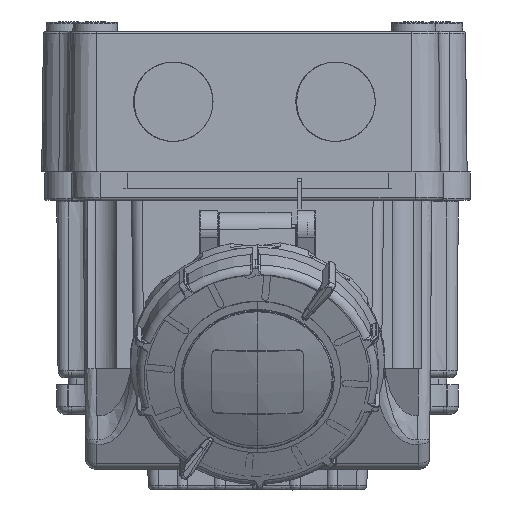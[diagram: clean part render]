
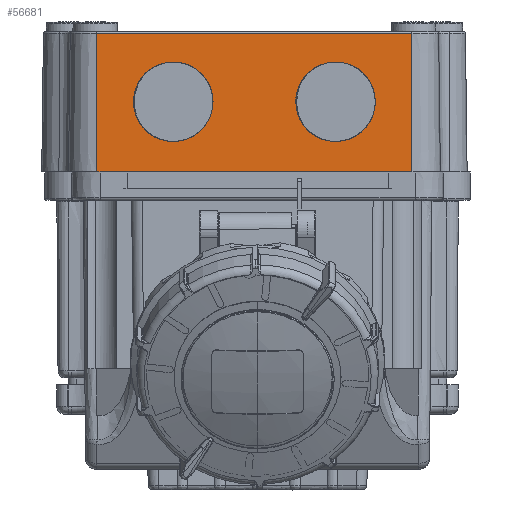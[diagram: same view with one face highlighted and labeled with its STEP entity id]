
A CAD part, left-side view. The second image highlights one B-rep face of the part: STEP entity #56681.
In plain terms, the highlighted planar face has unit normal (-1, 0, 0.012).
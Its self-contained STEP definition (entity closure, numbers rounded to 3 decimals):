
#901 = DIRECTION ( 'NONE',  ( 0.012, 0., 1. ) ) ;
#1281 = LINE ( 'NONE', #35856, #42188 ) ;
#2744 =( BOUNDED_CURVE ( )  B_SPLINE_CURVE ( 3, ( #61832, #13734, #25247, #68578 ),
 .UNSPECIFIED., .F., .F. ) 
 B_SPLINE_CURVE_WITH_KNOTS ( ( 4, 4 ),
 ( 1.571, 4.712 ),
 .UNSPECIFIED. ) 
 CURVE ( )  GEOMETRIC_REPRESENTATION_ITEM ( )  RATIONAL_B_SPLINE_CURVE ( ( 1., 0.334, 0.334, 1. ) ) 
 REPRESENTATION_ITEM ( '' )  );
#3080 = CARTESIAN_POINT ( 'NONE',  ( 684.272, 5298.135, 22.3 ) ) ;
#3193 = ORIENTED_EDGE ( 'NONE', *, *, #73000, .F. ) ;
#3639 = DIRECTION ( 'NONE',  ( 0., 1., 0. ) ) ;
#4719 = CARTESIAN_POINT ( 'NONE',  ( 684.118, 5259.25, 9.68 ) ) ;
#4720 = CARTESIAN_POINT ( 'NONE',  ( 684.272, 5298.135, 22.3 ) ) ;
#5033 = ORIENTED_EDGE ( 'NONE', *, *, #22813, .T. ) ;
#5202 = VERTEX_POINT ( 'NONE', #35267 ) ;
#5737 = VERTEX_POINT ( 'NONE', #42854 ) ;
#9589 = FACE_BOUND ( 'NONE', #74654, .T. ) ;
#10658 = CARTESIAN_POINT ( 'NONE',  ( 684.272, 5323.365, 22.3 ) ) ;
#13734 = CARTESIAN_POINT ( 'NONE',  ( 684.58, 5246.646, 47.508 ) ) ;
#15327 = CARTESIAN_POINT ( 'NONE',  ( 684.539, 5235., 44.106 ) ) ;
#16507 = CARTESIAN_POINT ( 'NONE',  ( 684.272, 5298.135, 22.3 ) ) ;
#16544 = CARTESIAN_POINT ( 'NONE',  ( 684.118, 5303.358, 9.68 ) ) ;
#16777 = CARTESIAN_POINT ( 'NONE',  ( 684., 5284., 0. ) ) ;
#17959 = VERTEX_POINT ( 'NONE', #68915 ) ;
#18195 = EDGE_LOOP ( 'NONE', ( #18759, #53287 ) ) ;
#18499 = LINE ( 'NONE', #48321, #69074 ) ;
#18759 = ORIENTED_EDGE ( 'NONE', *, *, #52064, .F. ) ;
#20058 = EDGE_CURVE ( 'NONE', #5737, #17959, #1281, .T. ) ;
#22210 = CARTESIAN_POINT ( 'NONE',  ( 684.182, 5246.632, 14.908 ) ) ;
#22311 = VERTEX_POINT ( 'NONE', #78477 ) ;
#22813 = EDGE_CURVE ( 'NONE', #5737, #59262, #31669, .T. ) ;
#23152 = LINE ( 'NONE', #16777, #46594 ) ;
#25247 = CARTESIAN_POINT ( 'NONE',  ( 684.58, 5271.854, 47.508 ) ) ;
#27388 = EDGE_CURVE ( 'NONE', #22311, #54588, #68928, .T. ) ;
#27487 = FACE_BOUND ( 'NONE', #18195, .T. ) ;
#30438 = EDGE_LOOP ( 'NONE', ( #5033, #39424, #60289, #58547, #61070 ) ) ;
#30675 = VECTOR ( 'NONE', #57457, 1000. ) ;
#30950 = AXIS2_PLACEMENT_3D ( 'NONE', #45374, #44986, #3639 ) ;
#31669 = LINE ( 'NONE', #32450, #32688 ) ;
#32450 = CARTESIAN_POINT ( 'NONE',  ( 684., 5335., 0. ) ) ;
#32688 = VECTOR ( 'NONE', #75736, 1000. ) ;
#33870 = ORIENTED_EDGE ( 'NONE', *, *, #27388, .F. ) ;
#34386 = LINE ( 'NONE', #15327, #30675 ) ;
#34502 = CARTESIAN_POINT ( 'NONE',  ( 684.58, 5298.146, 47.508 ) ) ;
#35267 = CARTESIAN_POINT ( 'NONE',  ( 684., 5235., 0. ) ) ;
#35297 = CARTESIAN_POINT ( 'NONE',  ( 684.182, 5271.868, 14.908 ) ) ;
#35479 =( BOUNDED_CURVE ( )  B_SPLINE_CURVE ( 3, ( #4720, #34502, #70296, #10658 ),
 .UNSPECIFIED., .F., .F. ) 
 B_SPLINE_CURVE_WITH_KNOTS ( ( 4, 4 ),
 ( 1.571, 4.712 ),
 .UNSPECIFIED. ) 
 CURVE ( )  GEOMETRIC_REPRESENTATION_ITEM ( )  RATIONAL_B_SPLINE_CURVE ( ( 1., 0.334, 0.334, 1. ) ) 
 REPRESENTATION_ITEM ( '' )  );
#35856 = CARTESIAN_POINT ( 'NONE',  ( 684., 5335., 0. ) ) ;
#39194 =( BOUNDED_CURVE ( )  B_SPLINE_CURVE ( 3, ( #57900, #57503, #69821, #71005, #16544, #40800, #3080 ),
 .UNSPECIFIED., .F., .F. ) 
 B_SPLINE_CURVE_WITH_KNOTS ( ( 4, 3, 4 ),
 ( 4.712, 6.283, 7.854 ),
 .UNSPECIFIED. ) 
 CURVE ( )  GEOMETRIC_REPRESENTATION_ITEM ( )  RATIONAL_B_SPLINE_CURVE ( ( 1., 0.805, 0.805, 1., 0.805, 0.805, 1. ) ) 
 REPRESENTATION_ITEM ( '' )  );
#39424 = ORIENTED_EDGE ( 'NONE', *, *, #61242, .F. ) ;
#39735 = VERTEX_POINT ( 'NONE', #16507 ) ;
#40352 = EDGE_CURVE ( 'NONE', #39735, #60968, #35479, .T. ) ;
#40800 = CARTESIAN_POINT ( 'NONE',  ( 684.182, 5298.132, 14.908 ) ) ;
#41212 = DIRECTION ( 'NONE',  ( 0., -1., 0. ) ) ;
#42188 = VECTOR ( 'NONE', #901, 1000. ) ;
#42854 = CARTESIAN_POINT ( 'NONE',  ( 684., 5335., 0. ) ) ;
#44594 = EDGE_CURVE ( 'NONE', #61968, #5202, #34386, .T. ) ;
#44957 = CARTESIAN_POINT ( 'NONE',  ( 684., 5334., 0. ) ) ;
#44986 = DIRECTION ( 'NONE',  ( -1., 0., 0.012 ) ) ;
#45374 = CARTESIAN_POINT ( 'NONE',  ( 684., 5285., 0. ) ) ;
#46594 = VECTOR ( 'NONE', #46982, 1000. ) ;
#46982 = DIRECTION ( 'NONE',  ( 0., 1., 0. ) ) ;
#48321 = CARTESIAN_POINT ( 'NONE',  ( 684.539, 5335., 44.106 ) ) ;
#50555 = PLANE ( 'NONE',  #30950 ) ;
#52064 = EDGE_CURVE ( 'NONE', #60968, #39735, #39194, .T. ) ;
#52369 = CARTESIAN_POINT ( 'NONE',  ( 684.539, 5235., 44.106 ) ) ;
#52389 = CARTESIAN_POINT ( 'NONE',  ( 684.272, 5246.635, 22.3 ) ) ;
#53287 = ORIENTED_EDGE ( 'NONE', *, *, #40352, .F. ) ;
#53565 = CARTESIAN_POINT ( 'NONE',  ( 684.272, 5271.865, 22.3 ) ) ;
#54588 = VERTEX_POINT ( 'NONE', #64356 ) ;
#56681 = ADVANCED_FACE ( 'NONE', ( #9589, #27487, #58077 ), #50555, .T. ) ;
#57457 = DIRECTION ( 'NONE',  ( -0.012, 0., -1. ) ) ;
#57503 = CARTESIAN_POINT ( 'NONE',  ( 684.182, 5323.368, 14.908 ) ) ;
#57900 = CARTESIAN_POINT ( 'NONE',  ( 684.272, 5323.365, 22.3 ) ) ;
#58077 = FACE_OUTER_BOUND ( 'NONE', #30438, .T. ) ;
#58359 = CARTESIAN_POINT ( 'NONE',  ( 684.118, 5266.642, 9.68 ) ) ;
#58547 = ORIENTED_EDGE ( 'NONE', *, *, #73882, .F. ) ;
#59262 = VERTEX_POINT ( 'NONE', #44957 ) ;
#60289 = ORIENTED_EDGE ( 'NONE', *, *, #44594, .F. ) ;
#60968 = VERTEX_POINT ( 'NONE', #68653 ) ;
#61070 = ORIENTED_EDGE ( 'NONE', *, *, #20058, .F. ) ;
#61242 = EDGE_CURVE ( 'NONE', #5202, #59262, #23152, .T. ) ;
#61832 = CARTESIAN_POINT ( 'NONE',  ( 684.272, 5246.635, 22.3 ) ) ;
#61968 = VERTEX_POINT ( 'NONE', #52369 ) ;
#64356 = CARTESIAN_POINT ( 'NONE',  ( 684.272, 5246.635, 22.3 ) ) ;
#65922 = CARTESIAN_POINT ( 'NONE',  ( 684.118, 5251.858, 9.68 ) ) ;
#68578 = CARTESIAN_POINT ( 'NONE',  ( 684.272, 5271.865, 22.3 ) ) ;
#68653 = CARTESIAN_POINT ( 'NONE',  ( 684.272, 5323.365, 22.3 ) ) ;
#68915 = CARTESIAN_POINT ( 'NONE',  ( 684.539, 5335., 44.106 ) ) ;
#68928 =( BOUNDED_CURVE ( )  B_SPLINE_CURVE ( 3, ( #53565, #35297, #58359, #4719, #65922, #22210, #52389 ),
 .UNSPECIFIED., .F., .F. ) 
 B_SPLINE_CURVE_WITH_KNOTS ( ( 4, 3, 4 ),
 ( 4.712, 6.283, 7.854 ),
 .UNSPECIFIED. ) 
 CURVE ( )  GEOMETRIC_REPRESENTATION_ITEM ( )  RATIONAL_B_SPLINE_CURVE ( ( 1., 0.805, 0.805, 1., 0.805, 0.805, 1. ) ) 
 REPRESENTATION_ITEM ( '' )  );
#69074 = VECTOR ( 'NONE', #41212, 1000. ) ;
#69821 = CARTESIAN_POINT ( 'NONE',  ( 684.118, 5318.142, 9.68 ) ) ;
#70296 = CARTESIAN_POINT ( 'NONE',  ( 684.58, 5323.354, 47.508 ) ) ;
#71005 = CARTESIAN_POINT ( 'NONE',  ( 684.118, 5310.75, 9.68 ) ) ;
#73000 = EDGE_CURVE ( 'NONE', #54588, #22311, #2744, .T. ) ;
#73882 = EDGE_CURVE ( 'NONE', #17959, #61968, #18499, .T. ) ;
#74654 = EDGE_LOOP ( 'NONE', ( #33870, #3193 ) ) ;
#75736 = DIRECTION ( 'NONE',  ( 0., -1., 0. ) ) ;
#78477 = CARTESIAN_POINT ( 'NONE',  ( 684.272, 5271.865, 22.3 ) ) ;
